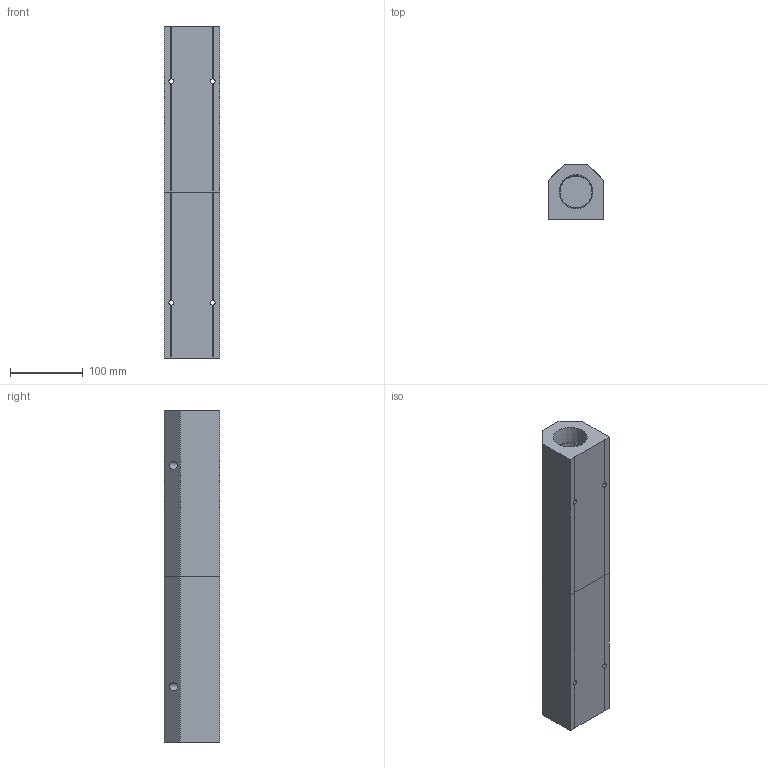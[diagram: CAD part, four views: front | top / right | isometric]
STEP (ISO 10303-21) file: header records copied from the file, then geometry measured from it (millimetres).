
FILE_DESCRIPTION (( 'STEP AP214' ), '1' );
FILE_NAME ('ALM8C-N4N24-457RB.step', '2022-02-07T07:52:23', ( '' ), ( '' ), 'SwSTEP 2.0', 'SolidWorks 2020', '' );
FILE_SCHEMA (( 'AUTOMOTIVE_DESIGN' ));
Length unit declared in the file: millimetre
Products named in the file (1): ALM8C-N4N24-457RB
Bounding box: 76.2 x 76.2 x 457 mm (x, y, z)
Volume: 1690323.9 mm3; surface area: 220391.8 mm2
Topology: 2 solids, 2 shells, 335 faces, 877 edges, 582 vertices
Faces by surface type: plane 237, bspline 58, cone 20, cylinder 20
Entity records: 17730 total; most frequent: CARTESIAN_POINT 6717, ORIENTED_EDGE 1754, DIRECTION 1341, EDGE_CURVE 877, VECTOR 673, LINE 673, VERTEX_POINT 582, EDGE_LOOP 395
